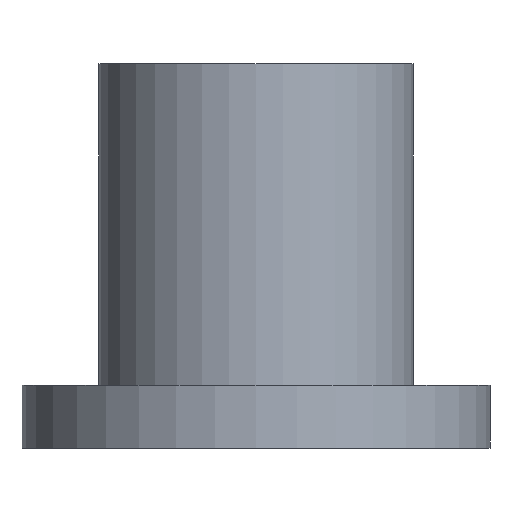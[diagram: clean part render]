
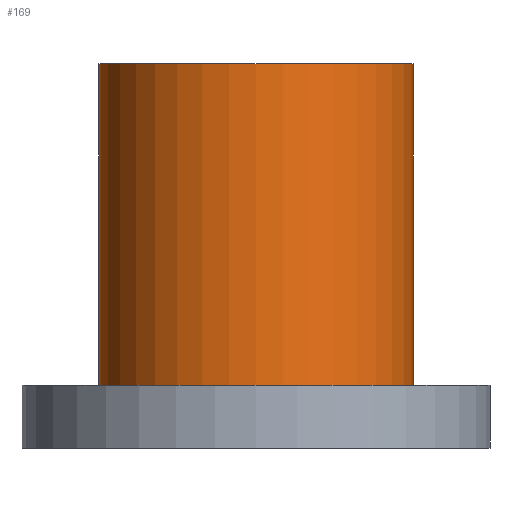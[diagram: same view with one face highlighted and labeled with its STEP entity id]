
A CAD part, front view. The second image highlights one B-rep face of the part: STEP entity #169.
In plain terms, the highlighted cylindrical face has radius 45 mm (diameter 90 mm), a partial arc.
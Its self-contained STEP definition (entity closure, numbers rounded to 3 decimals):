
#128=CARTESIAN_POINT('',(0.0,-0.1,0.0));
#129=DIRECTION('',(0.0,0.0,1.0));
#130=DIRECTION('',(-1.0,0.0,0.0));
#131=AXIS2_PLACEMENT_3D('',#128,#129,#130);
#132=CYLINDRICAL_SURFACE('',#131,45.0);
#133=CARTESIAN_POINT('',(-45.0,-0.1,18.0));
#134=VERTEX_POINT('',#133);
#135=CARTESIAN_POINT('',(-45.0,-0.1,110.0));
#136=VERTEX_POINT('',#135);
#137=CARTESIAN_POINT('',(-45.0,-0.1,18.0));
#138=DIRECTION('',(0.0,0.0,1.0));
#139=VECTOR('',#138,92.0);
#140=LINE('',#137,#139);
#141=EDGE_CURVE('',#134,#136,#140,.T.);
#142=ORIENTED_EDGE('',*,*,#141,.F.);
#143=CARTESIAN_POINT('',(45.0,-0.1,18.0));
#144=VERTEX_POINT('',#143);
#145=CARTESIAN_POINT('',(0.0,-0.1,18.0));
#146=DIRECTION('',(0.0,0.0,-1.0));
#147=DIRECTION('',(-1.0,0.0,0.0));
#148=AXIS2_PLACEMENT_3D('',#145,#146,#147);
#149=CIRCLE('',#148,45.0);
#150=EDGE_CURVE('',#144,#134,#149,.T.);
#151=ORIENTED_EDGE('',*,*,#150,.F.);
#152=CARTESIAN_POINT('',(45.0,-0.1,110.0));
#153=VERTEX_POINT('',#152);
#154=CARTESIAN_POINT('',(45.0,-0.1,110.0));
#155=DIRECTION('',(0.0,0.0,-1.0));
#156=VECTOR('',#155,92.0);
#157=LINE('',#154,#156);
#158=EDGE_CURVE('',#153,#144,#157,.T.);
#159=ORIENTED_EDGE('',*,*,#158,.F.);
#160=CARTESIAN_POINT('',(0.0,-0.1,110.0));
#161=DIRECTION('',(0.0,0.0,-1.0));
#162=DIRECTION('',(-1.0,0.0,0.0));
#163=AXIS2_PLACEMENT_3D('',#160,#161,#162);
#164=CIRCLE('',#163,45.0);
#165=EDGE_CURVE('',#153,#136,#164,.T.);
#166=ORIENTED_EDGE('',*,*,#165,.T.);
#167=EDGE_LOOP('',(#142,#151,#159,#166));
#168=FACE_OUTER_BOUND('',#167,.T.);
#169=ADVANCED_FACE('',(#168),#132,.T.);
